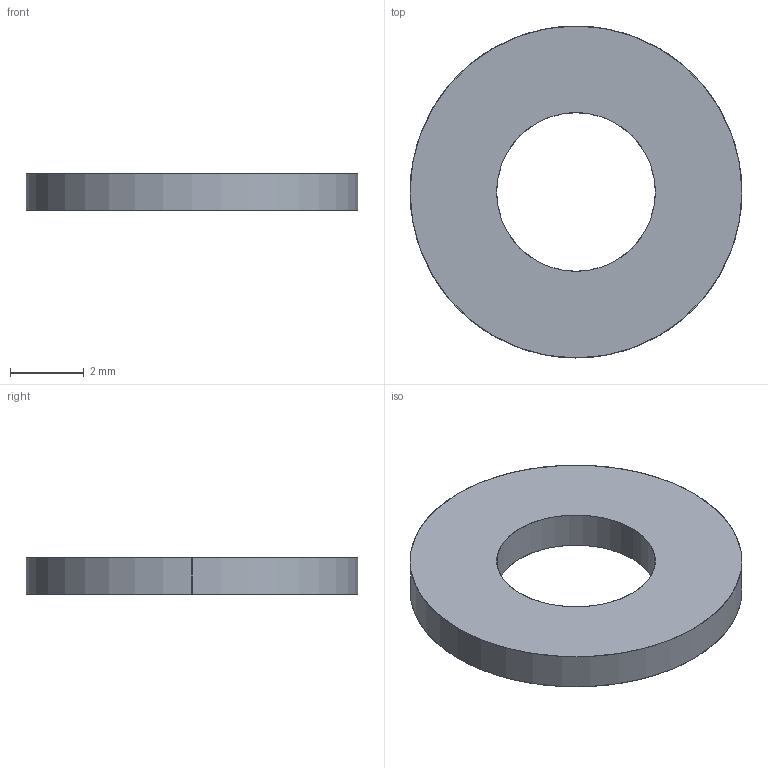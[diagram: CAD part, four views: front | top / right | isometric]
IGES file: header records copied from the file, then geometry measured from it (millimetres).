
Start section: SolidWorks IGES file using analytic representation for surfaces
Bounding box: 9 x 9 x 1 mm (x, y, z)
Surface area: 140 mm2 (no closed solid volume)
Topology: 0 solids, 0 shells, 6 faces, 144 edges, 144 vertices
Faces by surface type: revolution 4, bspline 2
